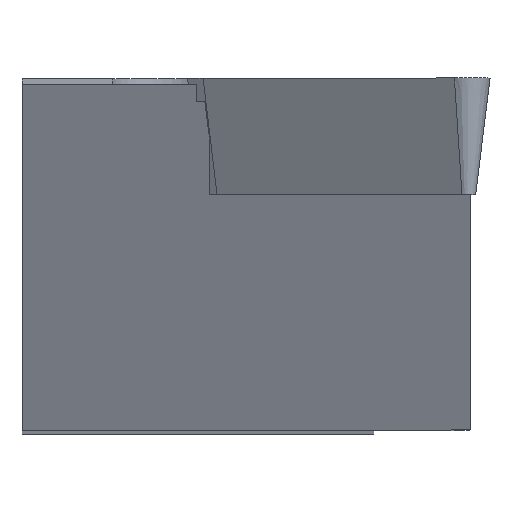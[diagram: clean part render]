
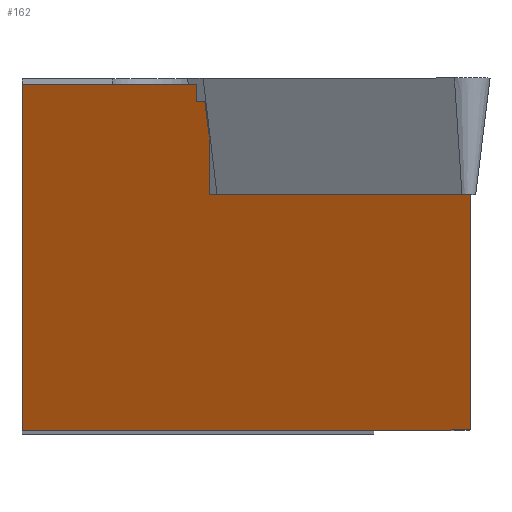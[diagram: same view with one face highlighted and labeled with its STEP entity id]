
A CAD part, top view. The second image highlights one B-rep face of the part: STEP entity #162.
In plain terms, the highlighted planar face has unit normal (-0.53, 0, 0.848).
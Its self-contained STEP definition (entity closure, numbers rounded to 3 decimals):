
#128=FACE_OUTER_BOUND('',#243,.T.);
#162=ADVANCED_FACE('',(#128),#194,.F.);
#194=PLANE('',#779);
#243=EDGE_LOOP('',(#371,#372,#373,#374,#375,#376,#377,#378,#379));
#371=ORIENTED_EDGE('',*,*,#564,.T.);
#372=ORIENTED_EDGE('',*,*,#561,.T.);
#373=ORIENTED_EDGE('',*,*,#558,.F.);
#374=ORIENTED_EDGE('',*,*,#568,.T.);
#375=ORIENTED_EDGE('',*,*,#575,.F.);
#376=ORIENTED_EDGE('',*,*,#576,.T.);
#377=ORIENTED_EDGE('',*,*,#577,.T.);
#378=ORIENTED_EDGE('',*,*,#544,.F.);
#379=ORIENTED_EDGE('',*,*,#541,.F.);
#475=VERTEX_POINT('',#1040);
#476=VERTEX_POINT('',#1042);
#478=VERTEX_POINT('',#1048);
#487=VERTEX_POINT('',#1074);
#488=VERTEX_POINT('',#1076);
#490=VERTEX_POINT('',#1082);
#493=VERTEX_POINT('',#1095);
#498=VERTEX_POINT('',#1109);
#499=VERTEX_POINT('',#1111);
#541=EDGE_CURVE('',#475,#476,#622,.T.);
#544=EDGE_CURVE('',#476,#478,#625,.T.);
#558=EDGE_CURVE('',#487,#488,#638,.T.);
#561=EDGE_CURVE('',#490,#488,#641,.T.);
#564=EDGE_CURVE('',#475,#490,#644,.T.);
#568=EDGE_CURVE('',#487,#493,#648,.T.);
#575=EDGE_CURVE('',#498,#493,#655,.T.);
#576=EDGE_CURVE('',#498,#499,#656,.T.);
#577=EDGE_CURVE('',#499,#478,#657,.T.);
#622=LINE('',#1041,#698);
#625=LINE('',#1047,#701);
#638=LINE('',#1075,#714);
#641=LINE('',#1081,#717);
#644=LINE('',#1086,#720);
#648=LINE('',#1094,#724);
#655=LINE('',#1108,#731);
#656=LINE('',#1110,#732);
#657=LINE('',#1112,#733);
#698=VECTOR('',#860,1.);
#701=VECTOR('',#865,1.);
#714=VECTOR('',#888,1.);
#717=VECTOR('',#893,1.);
#720=VECTOR('',#898,1.);
#724=VECTOR('',#906,1.);
#731=VECTOR('',#917,1.);
#732=VECTOR('',#918,1.);
#733=VECTOR('',#919,1.);
#779=AXIS2_PLACEMENT_3D('',#1113,#920,#921);
#860=DIRECTION('',(0.126,-0.989,0.079));
#865=DIRECTION('',(0.,-1.,0.));
#888=DIRECTION('',(0.848,0.,0.53));
#893=DIRECTION('',(0.,1.,0.));
#898=DIRECTION('',(-0.848,0.,-0.53));
#906=DIRECTION('',(0.,-1.,0.));
#917=DIRECTION('',(-0.848,0.,-0.53));
#918=DIRECTION('',(0.,1.,0.));
#919=DIRECTION('',(-0.848,0.,-0.53));
#920=DIRECTION('',(0.53,0.,-0.848));
#921=DIRECTION('',(-0.848,0.,-0.53));
#1040=CARTESIAN_POINT('',(-9.768,-0.8,-6.597));
#1041=CARTESIAN_POINT('',(-9.985,0.907,-6.732));
#1042=CARTESIAN_POINT('',(-9.606,-2.07,-6.496));
#1047=CARTESIAN_POINT('',(-9.606,-3.97,-6.496));
#1048=CARTESIAN_POINT('',(-9.606,-3.97,-6.496));
#1074=CARTESIAN_POINT('',(-16.,-0.2,-10.491));
#1075=CARTESIAN_POINT('',(-27.277,-0.2,-17.538));
#1076=CARTESIAN_POINT('',(-10.051,-0.2,-6.774));
#1081=CARTESIAN_POINT('',(-10.051,-12.,-6.774));
#1082=CARTESIAN_POINT('',(-10.051,-0.8,-6.774));
#1086=CARTESIAN_POINT('',(-27.277,-0.8,-17.538));
#1094=CARTESIAN_POINT('',(-16.,0.,-10.491));
#1095=CARTESIAN_POINT('',(-16.,-12.,-10.491));
#1108=CARTESIAN_POINT('',(-27.277,-12.,-17.538));
#1109=CARTESIAN_POINT('',(-0.722,-12.,-0.944));
#1110=CARTESIAN_POINT('',(-0.722,-12.,-0.944));
#1111=CARTESIAN_POINT('',(-0.722,-3.97,-0.944));
#1112=CARTESIAN_POINT('',(-5.373,-3.97,-3.851));
#1113=CARTESIAN_POINT('',(-27.277,-12.,-17.538));
